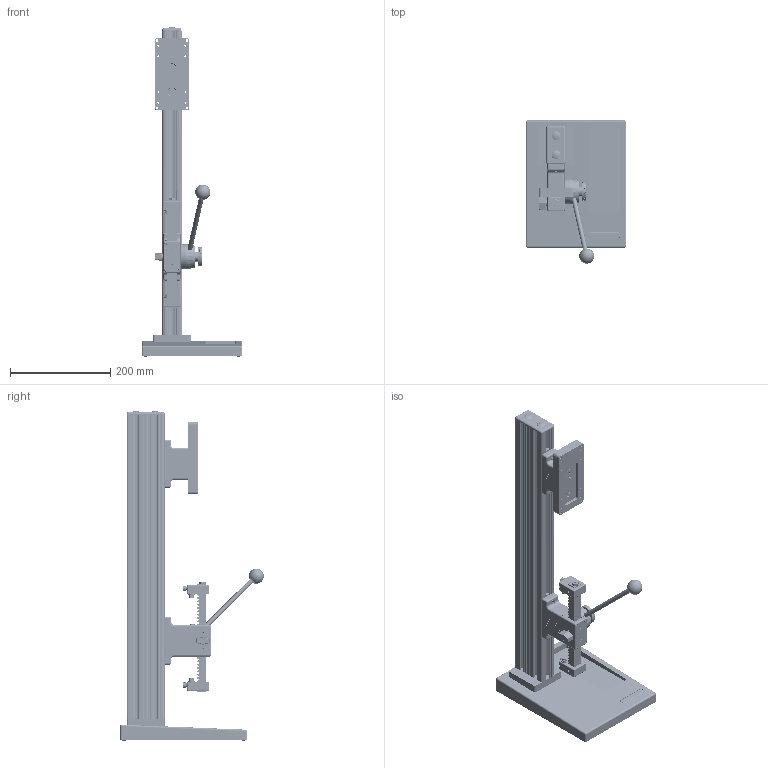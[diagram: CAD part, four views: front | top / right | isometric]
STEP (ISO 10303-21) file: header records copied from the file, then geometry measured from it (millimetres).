
FILE_DESCRIPTION((''),'2;1');
FILE_NAME('F:\CAD files\Itr\3D MARKETING MODELS\MANUAL TEST STANDS\TSA750\TSA750.stp','2017-06-20T17:49:48',('mlampen'),(''),'Autodesk Inventor 2010','Autodesk Inventor 2010','');
FILE_SCHEMA(('AUTOMOTIVE_DESIGN { 1 0 10303 214 1 1 1 1 }'));
Length unit declared in the file: inch
Products named in the file (4): Assembly1; Part2; Part4; Part6
Assembly tree (3 placements, depth 2):
  Assembly1
    Part2
    Part4
    Part6
Bounding box: 200.66 x 286.5 x 658.57 mm (x, y, z)
Volume: 3474433.8 mm3; surface area: 665091.1 mm2
Topology: 15 solids, 23 shells, 7167 faces, 18803 edges, 11690 vertices
Faces by surface type: plane 4044, cylinder 2493, cone 392, bspline 157, sphere 54, torus 27
Full cylindrical faces by diameter (mm): 3.505 x20, 3.556 x10, 3.81 x8, 4.039 x8, 4.166 x1, 4.737 x1, 4.75 x1, 4.763 x1, 4.826 x51, 5.031 x1, 5.08 x1, 5.207 x4, 5.613 x2, 5.74 x15, 6.147 x1, 6.223 x4, 6.35 x31, 6.528 x2, 6.553 x21, 7.112 x4, 7.137 x2, 7.925 x4, 7.938 x16, 8.331 x2, 8.382 x2, 8.636 x6, 9.347 x1, 9.525 x7, 9.652 x2, 10.16 x4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
Entity records: 250023 total; most frequent: CARTESIAN_POINT 79185, DIRECTION 37979, ORIENTED_EDGE 36162, EDGE_CURVE 18081, AXIS2_PLACEMENT_3D 16233, VERTEX_POINT 11399, EDGE_LOOP 7556, FACE_OUTER_BOUND 7052
